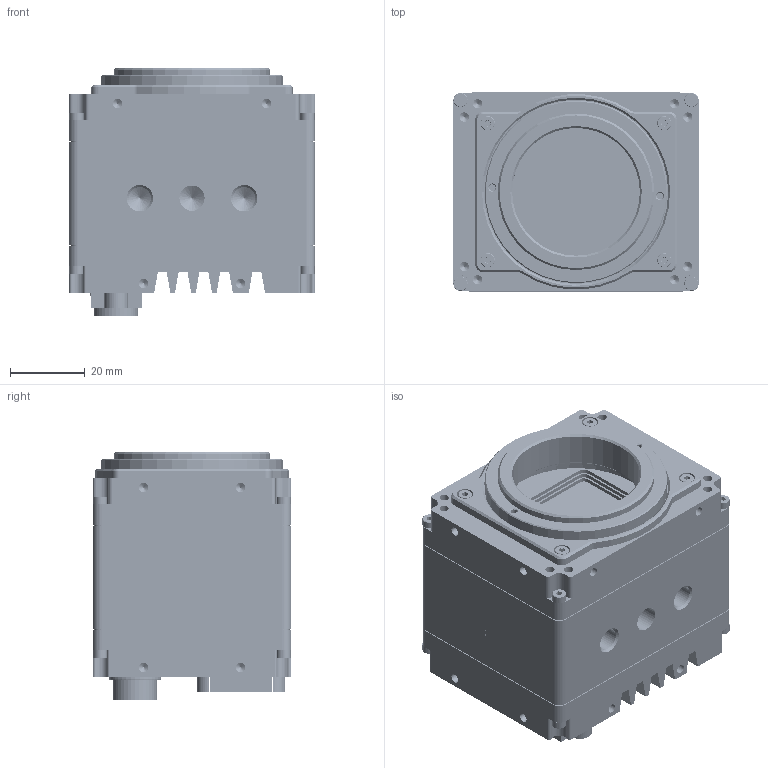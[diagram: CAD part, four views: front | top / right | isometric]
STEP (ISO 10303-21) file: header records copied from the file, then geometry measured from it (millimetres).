
FILE_DESCRIPTION (( 'STEP AP203' ), '1' );
FILE_NAME ('GT LF IMX TFL-MOUNT CAMERA.STEP', '2019-07-26T22:02:47', ( '' ), ( '' ), 'SwSTEP 2.0', 'SolidWorks 2018', '' );
FILE_SCHEMA (( 'CONFIG_CONTROL_DESIGN' ));
Products named in the file (1): GT LF IMX TFL-MOUNT CAMERA
Bounding box: 66.04 x 53.34 x 66.74 mm (x, y, z)
Volume: 95201.2 mm3; surface area: 81186.9 mm2
Topology: 343 solids, 343 shells, 22288 faces, 54960 edges, 36189 vertices
Faces by surface type: plane 15724, cylinder 4901, torus 996, cone 256, bspline 253, sphere 158
Entity records: 667614 total; most frequent: CARTESIAN_POINT 132189, DIRECTION 109749, ORIENTED_EDGE 109128, EDGE_CURVE 54564, LINE 41243, VECTOR 41243, VERTEX_POINT 36021, AXIS2_PLACEMENT_3D 34253
